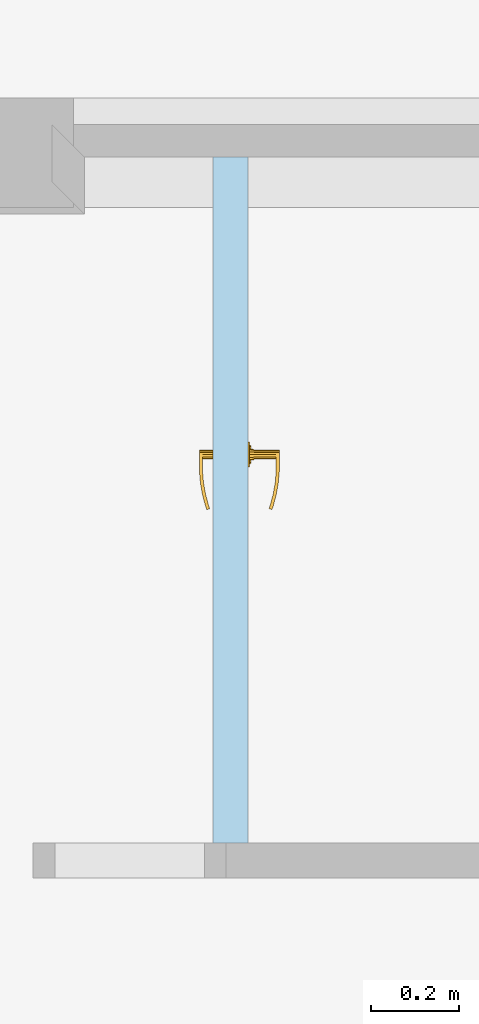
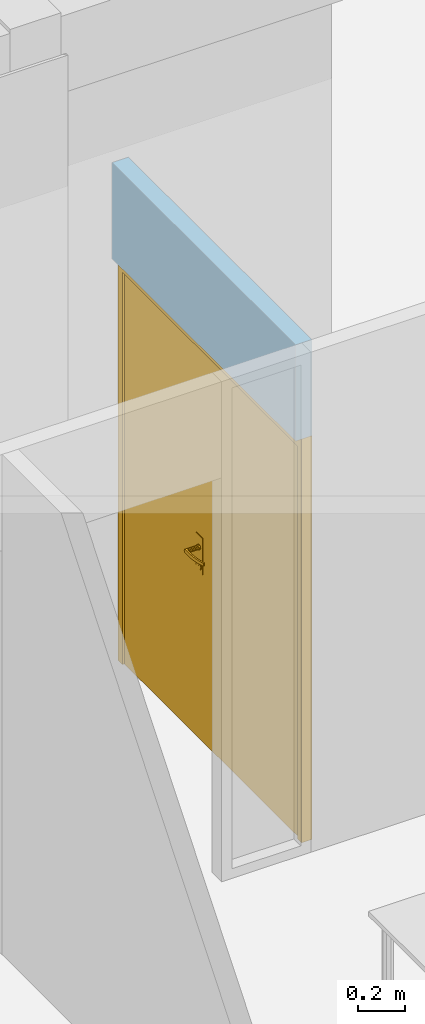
# One storey, part 40 of 91: 1 door, 1 opening, plus 1 element that does not belong to this part.
"""IFC2X3 building model written with IfcOpenShell, lengths in metres."""

from ifc_helpers import new_model, entity, si_unit, converted_unit, derived_unit, money_unit, direction, frame, origin_with_axes, origin_2d_with_axis, place, context, subcontext, project, spatial, polyline, rectangle, outline, extrude, open_shell, faceted_brep, surface_model, material, layer, layer_set, layer_usage, type_object, element, fill, save


model = new_model("IFC2X3")

# Units and contexts
model_context = context("Model", 3, precision=1e-05, world=origin_with_axes(), true_north=direction((0.0, 1.0)))
body_context = subcontext(model_context, "Body", "Model", "MODEL_VIEW")
ifc_project = project(units=[si_unit("LENGTHUNIT", "METRE"), si_unit("AREAUNIT", "SQUARE_METRE"), si_unit("VOLUMEUNIT", "CUBIC_METRE"), converted_unit("PLANEANGLEUNIT", "DEGREE", entity("IfcPlaneAngleMeasure", 0.0174532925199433), si_unit("PLANEANGLEUNIT", "RADIAN"), dimensions=[0, 0, 0, 0, 0, 0, 0]), money_unit("EUR"), converted_unit("TIMEUNIT", "Year", entity("IfcTimeMeasure", 31557600.0), si_unit("TIMEUNIT", "SECOND"), dimensions=[0, 0, 1, 0, 0, 0, 0]), si_unit("MASSUNIT", "GRAM", prefix="KILO"), si_unit("THERMODYNAMICTEMPERATUREUNIT", "DEGREE_CELSIUS"), si_unit("LUMINOUSINTENSITYUNIT", "LUMEN"), si_unit("ENERGYUNIT", "JOULE", prefix="MEGA"), derived_unit("THERMALCONDUCTANCEUNIT", [(si_unit("POWERUNIT", "WATT"), 1), (si_unit("LENGTHUNIT", "METRE"), -1), (si_unit("THERMODYNAMICTEMPERATUREUNIT", "KELVIN"), -1)]), derived_unit("SPECIFICHEATCAPACITYUNIT", [(si_unit("ENERGYUNIT", "JOULE"), 1), (si_unit("MASSUNIT", "GRAM", prefix="KILO"), -1), (si_unit("THERMODYNAMICTEMPERATUREUNIT", "KELVIN"), -1)]), derived_unit("MASSDENSITYUNIT", [(si_unit("MASSUNIT", "GRAM", prefix="KILO"), 1), (si_unit("VOLUMEUNIT", "CUBIC_METRE"), -1)])], contexts=[model_context])

# Site, building, storey
site_placement = place(None, origin_with_axes())
site = spatial("IfcSite", under=ifc_project, at=site_placement, Name="Site", CompositionType="ELEMENT")
building_placement = place(site_placement, origin_with_axes())
building = spatial("IfcBuilding", under=site, at=building_placement, Name="Bâtiment", CompositionType="ELEMENT")
storey_placement = place(building_placement, origin_with_axes())
storey = spatial("IfcBuildingStorey", under=building, at=storey_placement, Name="RDC", CompositionType="ELEMENT", Elevation=0.0)

# Wall, opening, door
ifc_material = material(Name="*PLAQUE DE PLATRE - CLOISON")
ifc_layer = layer(ifc_material, 0.08, ventilated="UNKNOWN")
ifc_layer_set = layer_set([ifc_layer], Name="*PLAQUE DE PLATRE - CLOISON 0.08")
ifc_layer_usage = layer_usage(ifc_layer_set, "AXIS2", "POSITIVE", 0.0)
wall_type = type_object("IfcWallType", Name="*PLAQUE DE PLATRE - CLOISON 80", PredefinedType="NOTDEFINED")
wall_placement = place(storey_placement, frame((43.94299999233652, -23.11056215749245, 0.0), z_axis=(0.0, 0.0, 1.0), x_axis=(0.0, 1.0, 0.0)))
wall = element("IfcWallStandardCase", 1, at=wall_placement, inside=storey, type_object=wall_type, material=ifc_layer_usage, Name="Cloison modulaire", context=body_context, shape_type="SweptSolid", body=[
    extrude(outline(polyline([(0.08000000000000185, 0.0), (1.643000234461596, 0.0), (1.643000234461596, 0.0799999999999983), (0.08000000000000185, 0.0799999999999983), (0.08000000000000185, 0.0)])), origin_with_axes(), (0.0, 0.0, 1.0), 2.600000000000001),
])
opening_placement = place(wall_placement, frame((0.861500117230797, 0.0, 0.0), z_axis=(0.0, 0.0, 1.0), x_axis=(1.0, 0.0, 0.0)))
opening = element("IfcOpeningElement", 2, at=opening_placement, cuts=wall, Name="Pi.03", context=body_context, shape_type="SweptSolid", body=[
    extrude(rectangle(XDim=1.563000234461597, YDim=2.1, at=origin_2d_with_axis()), frame((0.0, 0.0799999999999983, 1.05), z_axis=(0.0, -1.0, 0.0), x_axis=(-1.0, 0.0, 0.0)), (0.0, 0.0, 1.0), 0.24),
])
door_style = type_object("IfcDoorStyle", Name="Porte double 27", ConstructionType="NOTDEFINED", OperationType="DOUBLE_DOOR_SINGLE_SWING", ParameterTakesPrecedence=False, Sizeable=False)
door_placement = place(opening_placement, frame((0.7815001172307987, 0.0, 0.0), z_axis=(0.0, 0.0, 1.0), x_axis=(-1.0, 0.0, 0.0)))
door = element("IfcDoor", 3, at=door_placement, inside=storey, type_object=door_style, Name="Pi.03", OverallHeight=2.1, OverallWidth=1.563, context=body_context, shape_type="SurfaceModel", body=[
    faceted_brep([(0.0, 0.0, 0.0), (0.03500000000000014, 0.0, 0.0), (0.03500000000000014, -0.04999999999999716, 0.0), (0.0, -0.04999999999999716, 0.0), (0.0, 0.0, 2.04), (0.03500000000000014, 0.0, 2.04), (0.03500000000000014, -0.04999999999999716, 2.04), (0.0, -0.04999999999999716, 2.04)], [[[0, 1, 2, 3]], [[0, 4, 5, 1]], [[1, 5, 6, 2]], [[3, 2, 6, 7]], [[4, 0, 3, 7]], [[5, 4, 7, 6]]]),
    faceted_brep([(1.563000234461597, 0.0, 0.0), (1.563000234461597, 0.0, 2.04), (1.563000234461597, -0.04999999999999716, 2.04), (1.563000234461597, -0.04999999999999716, 0.0), (1.528000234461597, 0.0, 0.0), (1.528000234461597, 0.0, 2.04), (1.528000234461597, -0.04999999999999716, 2.04), (1.528000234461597, -0.04999999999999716, 0.0)], [[[0, 1, 2, 3]], [[0, 4, 5, 1]], [[1, 5, 6, 2]], [[3, 2, 6, 7]], [[4, 0, 3, 7]], [[5, 4, 7, 6]]]),
    faceted_brep([(0.0, 0.0, 2.1), (0.0, 0.0, 2.04), (0.0, -0.04999999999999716, 2.04), (0.0, -0.04999999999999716, 2.1), (1.563000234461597, 0.0, 2.1), (1.563000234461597, 0.0, 2.04), (1.528000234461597, 0.0, 2.04), (0.03500000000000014, 0.0, 2.04), (0.03500000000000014, -0.04999999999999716, 2.04), (1.528000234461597, -0.04999999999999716, 2.04), (1.563000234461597, -0.04999999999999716, 2.04), (1.563000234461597, -0.04999999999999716, 2.1)], [[[0, 1, 2, 3]], [[0, 4, 5, 6, 7, 1]], [[1, 7, 8, 2]], [[3, 2, 8, 9, 10, 11]], [[4, 0, 3, 11]], [[5, 4, 11, 10]], [[6, 5, 10, 9]], [[7, 6, 9, 8]]]),
    faceted_brep([(0.6495002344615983, -0.03999999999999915, 1.06), (0.6495002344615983, -0.04299999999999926, 1.06), (0.7065002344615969, -0.04299999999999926, 1.06), (0.7065002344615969, -0.03999999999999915, 1.06), (0.6495002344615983, -0.03999999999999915, 0.87), (0.6495002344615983, -0.04299999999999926, 0.87), (0.7065002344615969, -0.04299999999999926, 0.87), (0.7065002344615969, -0.03999999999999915, 0.87)], [[[0, 1, 2, 3]], [[4, 5, 1, 0]], [[1, 5, 6, 2]], [[3, 2, 6, 7]], [[0, 3, 7, 4]], [[7, 6, 5, 4]]]),
    faceted_brep([(0.6780002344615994, -0.1039999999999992, 0.99), (0.6780002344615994, -0.1109999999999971, 0.99), (0.6730002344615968, -0.1109999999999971, 0.9913397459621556), (0.6730002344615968, -0.1039999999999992, 0.9913397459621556), (0.703000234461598, -0.1039999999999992, 0.99), (0.703000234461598, -0.1109999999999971, 0.99), (0.703000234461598, -0.1109999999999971, 1.01), (0.6780002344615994, -0.1109999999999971, 1.01), (0.6730002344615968, -0.1109999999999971, 1.008660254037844), (0.6693399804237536, -0.1109999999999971, 1.005), (0.6680002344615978, -0.1109999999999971, 1.0), (0.6693399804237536, -0.1109999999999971, 0.995), (0.6693399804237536, -0.1039999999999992, 0.995), (0.6680002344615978, -0.1039999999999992, 1.0), (0.6693399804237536, -0.1039999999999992, 1.005), (0.6730002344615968, -0.1039999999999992, 1.008660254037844), (0.6780002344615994, -0.1039999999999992, 1.01), (0.703000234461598, -0.1039999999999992, 1.01)], [[[0, 1, 2, 3]], [[4, 5, 1, 0]], [[1, 5, 6, 7, 8, 9, 10, 11, 2]], [[3, 2, 11, 12]], [[0, 3, 12, 13, 14, 15, 16, 17, 4]], [[17, 6, 5, 4]], [[16, 7, 6, 17]], [[15, 8, 7, 16]], [[14, 9, 8, 15]], [[13, 10, 9, 14]], [[12, 11, 10, 13]]]),
    surface_model("IfcShellBasedSurfaceModel", [(0.703000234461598, -0.1039999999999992, 1.01), (0.7164041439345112, -0.1109999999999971, 1.009607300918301), (0.716098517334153, -0.1039999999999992, 1.009607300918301), (0.703000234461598, -0.1109999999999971, 1.01), (0.7431099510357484, -0.1086635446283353, 1.008821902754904), (0.716098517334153, -0.1039999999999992, 0.9903926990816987), (0.703000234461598, -0.1039999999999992, 0.99), (0.703000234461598, -0.1109999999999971, 0.99), (0.7164041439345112, -0.1109999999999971, 0.9903926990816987), (0.7431099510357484, -0.1086635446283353, 0.9911780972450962), (0.7421953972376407, -0.1017168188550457, 1.008821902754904), (0.7421953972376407, -0.1017168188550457, 0.9911780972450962), (0.7695104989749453, -0.1040084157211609, 0.9919634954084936), (0.7695104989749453, -0.1040084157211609, 1.008036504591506), (0.7679939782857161, -0.09716783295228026, 1.008036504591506), (0.7679939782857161, -0.09716783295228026, 0.9919634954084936), (0.795404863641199, -0.09707004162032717, 0.9927488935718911), (0.795404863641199, -0.09707004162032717, 1.007251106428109), (0.7932979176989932, -0.09038766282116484, 1.007251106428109), (0.7932979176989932, -0.09038766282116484, 0.9927488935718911), (0.803461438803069, -0.09413768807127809, 0.993), (0.803461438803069, -0.09413768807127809, 1.007), (0.8011707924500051, -0.08752217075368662, 1.007), (0.8011707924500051, -0.08752217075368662, 0.993)], [open_shell([[[0, 1, 2]], [[0, 3, 1]], [[2, 1, 4]], [[0, 2, 5, 6]], [[3, 7, 8, 1]], [[1, 8, 9, 4]], [[2, 4, 10]], [[2, 10, 11, 5]], [[5, 7, 6]], [[5, 8, 7]], [[11, 9, 8]], [[4, 9, 12, 13]], [[10, 4, 13]], [[10, 14, 15, 11]], [[11, 8, 5]], [[15, 9, 11]], [[15, 12, 9]], [[13, 12, 16, 17]], [[10, 13, 14]], [[14, 18, 19, 15]], [[19, 12, 15]], [[19, 16, 12]], [[17, 16, 20, 21]], [[14, 13, 17]], [[14, 17, 18]], [[18, 22, 23, 19]], [[23, 16, 19]], [[23, 20, 16]], [[22, 21, 20, 23]], [[18, 17, 21]], [[18, 21, 22]]])]),
    faceted_brep([(0.68839253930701, -0.05299999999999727, 0.994), (0.6892585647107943, -0.04299999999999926, 0.9935), (0.6910002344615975, -0.04299999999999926, 1.0), (0.6900002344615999, -0.05299999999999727, 1.0), (0.6840002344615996, -0.05299999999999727, 0.9896076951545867), (0.6845002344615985, -0.04299999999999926, 0.9887416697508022), (0.6780002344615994, -0.04299999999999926, 0.987), (0.6715002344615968, -0.04299999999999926, 0.9887416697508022), (0.666741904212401, -0.04299999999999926, 0.9934999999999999), (0.6650002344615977, -0.04299999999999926, 1.0), (0.666741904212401, -0.04299999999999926, 1.0065), (0.6715002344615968, -0.04299999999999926, 1.011258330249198), (0.6780002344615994, -0.04299999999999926, 1.013), (0.6845002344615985, -0.04299999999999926, 1.011258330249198), (0.6892585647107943, -0.04299999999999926, 1.0065), (0.68839253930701, -0.05299999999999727, 1.006), (0.6840002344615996, -0.05299999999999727, 1.010392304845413), (0.6780002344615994, -0.05299999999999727, 1.012), (0.6720002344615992, -0.05299999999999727, 1.010392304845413), (0.6676079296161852, -0.05299999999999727, 1.006), (0.666000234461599, -0.05299999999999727, 1.0), (0.6676079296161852, -0.05299999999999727, 0.994), (0.6720002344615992, -0.05299999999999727, 0.9896076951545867), (0.6780002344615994, -0.05299999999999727, 0.988)], [[[0, 1, 2, 3]], [[4, 5, 1, 0]], [[2, 1, 5, 6, 7, 8, 9, 10, 11, 12, 13, 14]], [[3, 2, 14, 15]], [[3, 15, 16, 17, 18, 19, 20, 21, 22, 23, 4, 0]], [[23, 6, 5, 4]], [[22, 7, 6, 23]], [[21, 8, 7, 22]], [[20, 9, 8, 21]], [[19, 10, 9, 20]], [[18, 11, 10, 19]], [[17, 12, 11, 18]], [[16, 13, 12, 17]], [[15, 14, 13, 16]]]),
    faceted_brep([(0.6953207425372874, -0.04699999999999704, 0.895), (0.6970527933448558, -0.04299999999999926, 0.894), (0.7000002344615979, -0.04299999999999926, 0.905), (0.698000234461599, -0.04699999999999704, 0.905), (0.6880002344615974, -0.04699999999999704, 0.8876794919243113), (0.6890002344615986, -0.04299999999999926, 0.8859474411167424), (0.6780002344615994, -0.04299999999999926, 0.883), (0.6670002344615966, -0.04299999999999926, 0.8859474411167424), (0.6589476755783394, -0.04299999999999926, 0.894), (0.6560002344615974, -0.04299999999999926, 0.905), (0.6589476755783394, -0.04299999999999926, 0.916), (0.6670002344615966, -0.04299999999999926, 0.9240525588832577), (0.6780002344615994, -0.04299999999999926, 0.927), (0.6890002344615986, -0.04299999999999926, 0.9240525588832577), (0.6970527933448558, -0.04299999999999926, 0.916), (0.6953207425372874, -0.04699999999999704, 0.915), (0.6880002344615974, -0.04699999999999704, 0.9223205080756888), (0.6780002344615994, -0.04699999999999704, 0.925), (0.6680002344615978, -0.04699999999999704, 0.9223205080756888), (0.6606797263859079, -0.04699999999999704, 0.915), (0.6580002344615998, -0.04699999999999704, 0.905), (0.6606797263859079, -0.04699999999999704, 0.895), (0.6680002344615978, -0.04699999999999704, 0.8876794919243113), (0.6780002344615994, -0.04699999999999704, 0.885)], [[[0, 1, 2, 3]], [[4, 5, 1, 0]], [[2, 1, 5, 6, 7, 8, 9, 10, 11, 12, 13, 14]], [[3, 2, 14, 15]], [[3, 15, 16, 17, 18, 19, 20, 21, 22, 23, 4, 0]], [[23, 6, 5, 4]], [[22, 7, 6, 23]], [[21, 8, 7, 22]], [[20, 9, 8, 21]], [[19, 10, 9, 20]], [[18, 11, 10, 19]], [[17, 12, 11, 18]], [[16, 13, 12, 17]], [[15, 14, 13, 16]]]),
    faceted_brep([(0.6829499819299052, -0.04899999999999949, 0.9090502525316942), (0.6836570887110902, -0.04699999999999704, 0.9083431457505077), (0.6860002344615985, -0.04699999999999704, 0.914), (0.6850002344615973, -0.04899999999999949, 0.914), (0.6780002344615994, -0.04899999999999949, 0.907), (0.6780002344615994, -0.04699999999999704, 0.906), (0.672343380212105, -0.04699999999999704, 0.9083431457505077), (0.6700002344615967, -0.04699999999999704, 0.914), (0.672343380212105, -0.04699999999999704, 0.9196568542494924), (0.6780002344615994, -0.04699999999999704, 0.922), (0.6836570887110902, -0.04699999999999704, 0.9196568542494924), (0.6829499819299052, -0.04899999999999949, 0.9189497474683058), (0.6780002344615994, -0.04899999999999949, 0.921), (0.6730504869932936, -0.04899999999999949, 0.9189497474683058), (0.671000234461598, -0.04899999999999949, 0.914), (0.6730504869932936, -0.04899999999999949, 0.9090502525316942)], [[[0, 1, 2, 3]], [[4, 5, 1, 0]], [[2, 1, 5, 6, 7, 8, 9, 10]], [[3, 2, 10, 11]], [[3, 11, 12, 13, 14, 15, 4, 0]], [[15, 6, 5, 4]], [[14, 7, 6, 15]], [[13, 8, 7, 14]], [[12, 9, 8, 13]], [[11, 10, 9, 12]]]),
    faceted_brep([(0.6780002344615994, -0.05299999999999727, 1.01), (0.6780002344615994, -0.1039999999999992, 1.01), (0.6830002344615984, -0.1039999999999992, 1.008660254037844), (0.6830002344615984, -0.05299999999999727, 1.008660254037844), (0.6730002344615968, -0.05299999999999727, 1.008660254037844), (0.6730002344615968, -0.1039999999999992, 1.008660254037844), (0.6693399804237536, -0.1039999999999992, 1.005), (0.6680002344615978, -0.1039999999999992, 1.0), (0.6693399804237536, -0.1039999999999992, 0.995), (0.6730002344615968, -0.1039999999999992, 0.9913397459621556), (0.6780002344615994, -0.1039999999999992, 0.99), (0.6830002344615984, -0.1039999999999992, 0.9913397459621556), (0.6866604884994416, -0.1039999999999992, 0.995), (0.6880002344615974, -0.1039999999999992, 1.0), (0.6866604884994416, -0.1039999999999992, 1.005), (0.6866604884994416, -0.05299999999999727, 1.005), (0.6880002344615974, -0.05299999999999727, 1.0), (0.6866604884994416, -0.05299999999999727, 0.995), (0.6830002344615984, -0.05299999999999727, 0.9913397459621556), (0.6780002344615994, -0.05299999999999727, 0.99), (0.6730002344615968, -0.05299999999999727, 0.9913397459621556), (0.6693399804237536, -0.05299999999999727, 0.995), (0.6680002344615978, -0.05299999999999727, 1.0), (0.6693399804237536, -0.05299999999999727, 1.005)], [[[0, 1, 2, 3]], [[4, 5, 1, 0]], [[1, 5, 6, 7, 8, 9, 10, 11, 12, 13, 14, 2]], [[3, 2, 14, 15]], [[0, 3, 15, 16, 17, 18, 19, 20, 21, 22, 23, 4]], [[23, 6, 5, 4]], [[22, 7, 6, 23]], [[21, 8, 7, 22]], [[20, 9, 8, 21]], [[19, 10, 9, 20]], [[18, 11, 10, 19]], [[17, 12, 11, 18]], [[16, 13, 12, 17]], [[15, 14, 13, 16]]]),
    faceted_brep([(0.6495002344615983, 0.0, 1.06), (0.7065002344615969, 0.0, 1.06), (0.7065002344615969, 0.003000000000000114, 1.06), (0.6495002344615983, 0.003000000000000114, 1.06), (0.6495002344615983, 0.0, 0.87), (0.7065002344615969, 0.0, 0.87), (0.7065002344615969, 0.003000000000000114, 0.87), (0.6495002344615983, 0.003000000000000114, 0.87)], [[[0, 1, 2, 3]], [[0, 4, 5, 1]], [[1, 5, 6, 2]], [[3, 2, 6, 7]], [[4, 0, 3, 7]], [[5, 4, 7, 6]]]),
    faceted_brep([(0.6780002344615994, 0.06400000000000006, 0.99), (0.6730002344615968, 0.06400000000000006, 0.9913397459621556), (0.6730002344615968, 0.07099999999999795, 0.9913397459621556), (0.6780002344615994, 0.07099999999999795, 0.99), (0.703000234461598, 0.06400000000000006, 0.99), (0.703000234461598, 0.06400000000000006, 1.01), (0.6780002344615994, 0.06400000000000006, 1.01), (0.6730002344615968, 0.06400000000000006, 1.008660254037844), (0.6693399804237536, 0.06400000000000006, 1.005), (0.6680002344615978, 0.06400000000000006, 1.0), (0.6693399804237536, 0.06400000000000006, 0.995), (0.6693399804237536, 0.07099999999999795, 0.995), (0.6680002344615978, 0.07099999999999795, 1.0), (0.6693399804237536, 0.07099999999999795, 1.005), (0.6730002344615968, 0.07099999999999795, 1.008660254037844), (0.6780002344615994, 0.07099999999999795, 1.01), (0.703000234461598, 0.07099999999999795, 1.01), (0.703000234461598, 0.07099999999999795, 0.99)], [[[0, 1, 2, 3]], [[0, 4, 5, 6, 7, 8, 9, 10, 1]], [[1, 10, 11, 2]], [[3, 2, 11, 12, 13, 14, 15, 16, 17]], [[4, 0, 3, 17]], [[5, 4, 17, 16]], [[6, 5, 16, 15]], [[7, 6, 15, 14]], [[8, 7, 14, 13]], [[9, 8, 13, 12]], [[10, 9, 12, 11]]]),
    surface_model("IfcShellBasedSurfaceModel", [(0.703000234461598, 0.06400000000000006, 1.01), (0.716098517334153, 0.06400000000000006, 1.009607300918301), (0.7164041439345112, 0.07099999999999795, 1.009607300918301), (0.703000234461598, 0.06400000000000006, 0.99), (0.716098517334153, 0.06400000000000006, 0.9903926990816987), (0.7431099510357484, 0.06866354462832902, 1.008821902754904), (0.703000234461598, 0.07099999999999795, 1.01), (0.703000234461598, 0.07099999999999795, 0.99), (0.7421953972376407, 0.06171681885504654, 0.9911780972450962), (0.7421953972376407, 0.06171681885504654, 1.008821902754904), (0.7431099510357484, 0.06866354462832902, 0.9911780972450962), (0.7164041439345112, 0.07099999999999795, 0.9903926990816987), (0.7679939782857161, 0.05716783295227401, 0.9919634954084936), (0.7679939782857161, 0.05716783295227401, 1.008036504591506), (0.7695104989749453, 0.06400841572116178, 1.008036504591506), (0.7695104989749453, 0.06400841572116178, 0.9919634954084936), (0.7932979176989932, 0.05038766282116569, 0.9927488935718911), (0.7932979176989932, 0.05038766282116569, 1.007251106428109), (0.795404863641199, 0.05707004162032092, 1.007251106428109), (0.795404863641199, 0.05707004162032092, 0.9927488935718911), (0.8011707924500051, 0.04752217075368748, 0.993), (0.8011707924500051, 0.04752217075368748, 1.007), (0.803461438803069, 0.05413768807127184, 1.007), (0.803461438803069, 0.05413768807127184, 0.993)], [open_shell([[[0, 1, 2]], [[0, 3, 4, 1]], [[1, 5, 2]], [[0, 2, 6]], [[4, 3, 7]], [[1, 4, 8, 9]], [[1, 9, 5]], [[2, 5, 10, 11]], [[6, 2, 11, 7]], [[4, 7, 11]], [[8, 4, 11]], [[9, 8, 12, 13]], [[9, 14, 5]], [[5, 14, 15, 10]], [[8, 11, 10]], [[12, 8, 10]], [[13, 12, 16, 17]], [[9, 13, 14]], [[14, 18, 19, 15]], [[12, 10, 15]], [[16, 12, 15]], [[17, 16, 20, 21]], [[13, 17, 18]], [[13, 18, 14]], [[18, 22, 23, 19]], [[16, 15, 19]], [[20, 16, 19]], [[21, 20, 23, 22]], [[17, 21, 22]], [[17, 22, 18]], [[20, 19, 23]]])]),
    faceted_brep([(0.68839253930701, 0.01299999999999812, 0.994), (0.6900002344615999, 0.01299999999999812, 1.0), (0.6910002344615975, 0.003000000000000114, 1.0), (0.6892585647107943, 0.003000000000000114, 0.9935), (0.6840002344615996, 0.01299999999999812, 0.9896076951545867), (0.6780002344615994, 0.01299999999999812, 0.988), (0.6720002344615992, 0.01299999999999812, 0.9896076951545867), (0.6676079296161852, 0.01299999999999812, 0.994), (0.666000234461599, 0.01299999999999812, 1.0), (0.6676079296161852, 0.01299999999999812, 1.006), (0.6720002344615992, 0.01299999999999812, 1.010392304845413), (0.6780002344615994, 0.01299999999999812, 1.012), (0.6840002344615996, 0.01299999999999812, 1.010392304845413), (0.68839253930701, 0.01299999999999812, 1.006), (0.6892585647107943, 0.003000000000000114, 1.0065), (0.6845002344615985, 0.003000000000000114, 1.011258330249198), (0.6780002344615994, 0.003000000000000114, 1.013), (0.6715002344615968, 0.003000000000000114, 1.011258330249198), (0.666741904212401, 0.003000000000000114, 1.0065), (0.6650002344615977, 0.003000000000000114, 1.0), (0.666741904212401, 0.003000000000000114, 0.9934999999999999), (0.6715002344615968, 0.003000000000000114, 0.9887416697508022), (0.6780002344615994, 0.003000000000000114, 0.987), (0.6845002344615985, 0.003000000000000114, 0.9887416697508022)], [[[0, 1, 2, 3]], [[1, 0, 4, 5, 6, 7, 8, 9, 10, 11, 12, 13]], [[1, 13, 14, 2]], [[2, 14, 15, 16, 17, 18, 19, 20, 21, 22, 23, 3]], [[4, 0, 3, 23]], [[5, 4, 23, 22]], [[6, 5, 22, 21]], [[7, 6, 21, 20]], [[8, 7, 20, 19]], [[9, 8, 19, 18]], [[10, 9, 18, 17]], [[11, 10, 17, 16]], [[12, 11, 16, 15]], [[13, 12, 15, 14]]]),
    faceted_brep([(0.6953207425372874, 0.006999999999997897, 0.895), (0.698000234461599, 0.006999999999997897, 0.905), (0.7000002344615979, 0.003000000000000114, 0.905), (0.6970527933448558, 0.003000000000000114, 0.894), (0.6880002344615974, 0.006999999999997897, 0.8876794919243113), (0.6780002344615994, 0.006999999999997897, 0.885), (0.6680002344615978, 0.006999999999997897, 0.8876794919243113), (0.6606797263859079, 0.006999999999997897, 0.895), (0.6580002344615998, 0.006999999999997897, 0.905), (0.6606797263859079, 0.006999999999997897, 0.915), (0.6680002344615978, 0.006999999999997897, 0.9223205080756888), (0.6780002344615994, 0.006999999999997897, 0.925), (0.6880002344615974, 0.006999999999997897, 0.9223205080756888), (0.6953207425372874, 0.006999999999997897, 0.915), (0.6970527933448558, 0.003000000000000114, 0.916), (0.6890002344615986, 0.003000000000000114, 0.9240525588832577), (0.6780002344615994, 0.003000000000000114, 0.927), (0.6670002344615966, 0.003000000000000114, 0.9240525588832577), (0.6589476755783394, 0.003000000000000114, 0.916), (0.6560002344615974, 0.003000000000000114, 0.905), (0.6589476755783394, 0.003000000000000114, 0.894), (0.6670002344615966, 0.003000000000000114, 0.8859474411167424), (0.6780002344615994, 0.003000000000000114, 0.883), (0.6890002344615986, 0.003000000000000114, 0.8859474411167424)], [[[0, 1, 2, 3]], [[1, 0, 4, 5, 6, 7, 8, 9, 10, 11, 12, 13]], [[1, 13, 14, 2]], [[2, 14, 15, 16, 17, 18, 19, 20, 21, 22, 23, 3]], [[4, 0, 3, 23]], [[5, 4, 23, 22]], [[6, 5, 22, 21]], [[7, 6, 21, 20]], [[8, 7, 20, 19]], [[9, 8, 19, 18]], [[10, 9, 18, 17]], [[11, 10, 17, 16]], [[12, 11, 16, 15]], [[13, 12, 15, 14]]]),
    faceted_brep([(0.6829499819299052, 0.009000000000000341, 0.9090502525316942), (0.6850002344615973, 0.009000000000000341, 0.914), (0.6860002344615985, 0.006999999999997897, 0.914), (0.6836570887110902, 0.006999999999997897, 0.9083431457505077), (0.6780002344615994, 0.009000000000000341, 0.907), (0.6730504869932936, 0.009000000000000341, 0.9090502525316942), (0.671000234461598, 0.009000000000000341, 0.914), (0.6730504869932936, 0.009000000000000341, 0.9189497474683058), (0.6780002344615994, 0.009000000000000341, 0.921), (0.6829499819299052, 0.009000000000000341, 0.9189497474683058), (0.6836570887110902, 0.006999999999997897, 0.9196568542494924), (0.6780002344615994, 0.006999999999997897, 0.922), (0.672343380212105, 0.006999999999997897, 0.9196568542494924), (0.6700002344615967, 0.006999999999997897, 0.914), (0.672343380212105, 0.006999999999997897, 0.9083431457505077), (0.6780002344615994, 0.006999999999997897, 0.906)], [[[0, 1, 2, 3]], [[1, 0, 4, 5, 6, 7, 8, 9]], [[1, 9, 10, 2]], [[2, 10, 11, 12, 13, 14, 15, 3]], [[4, 0, 3, 15]], [[5, 4, 15, 14]], [[6, 5, 14, 13]], [[7, 6, 13, 12]], [[8, 7, 12, 11]], [[9, 8, 11, 10]]]),
    faceted_brep([(0.6780002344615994, 0.01299999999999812, 1.01), (0.6830002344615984, 0.01299999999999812, 1.008660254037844), (0.6830002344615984, 0.06400000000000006, 1.008660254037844), (0.6780002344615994, 0.06400000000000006, 1.01), (0.6730002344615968, 0.01299999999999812, 1.008660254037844), (0.6693399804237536, 0.01299999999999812, 1.005), (0.6680002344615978, 0.01299999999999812, 1.0), (0.6693399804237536, 0.01299999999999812, 0.995), (0.6730002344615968, 0.01299999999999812, 0.9913397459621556), (0.6780002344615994, 0.01299999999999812, 0.99), (0.6830002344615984, 0.01299999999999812, 0.9913397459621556), (0.6866604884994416, 0.01299999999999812, 0.995), (0.6880002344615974, 0.01299999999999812, 1.0), (0.6866604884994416, 0.01299999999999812, 1.005), (0.6866604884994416, 0.06400000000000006, 1.005), (0.6880002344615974, 0.06400000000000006, 1.0), (0.6866604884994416, 0.06400000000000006, 0.995), (0.6830002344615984, 0.06400000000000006, 0.9913397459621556), (0.6780002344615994, 0.06400000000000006, 0.99), (0.6730002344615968, 0.06400000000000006, 0.9913397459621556), (0.6693399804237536, 0.06400000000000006, 0.995), (0.6680002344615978, 0.06400000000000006, 1.0), (0.6693399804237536, 0.06400000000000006, 1.005), (0.6730002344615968, 0.06400000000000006, 1.008660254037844)], [[[0, 1, 2, 3]], [[0, 4, 5, 6, 7, 8, 9, 10, 11, 12, 13, 1]], [[1, 13, 14, 2]], [[3, 2, 14, 15, 16, 17, 18, 19, 20, 21, 22, 23]], [[4, 0, 3, 23]], [[5, 4, 23, 22]], [[6, 5, 22, 21]], [[7, 6, 21, 20]], [[8, 7, 20, 19]], [[9, 8, 19, 18]], [[10, 9, 18, 17]], [[11, 10, 17, 16]], [[12, 11, 16, 15]], [[13, 12, 15, 14]]]),
    faceted_brep([(1.528000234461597, 0.0, 0.0), (1.528000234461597, -0.03999999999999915, 0.0), (0.6280002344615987, -0.03999999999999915, 0.0), (0.6280002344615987, 0.0, 0.0), (1.528000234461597, 0.0, 2.04), (1.528000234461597, -0.03999999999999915, 2.04), (0.6280002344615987, -0.03999999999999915, 2.04), (0.6280002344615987, 0.0, 2.04)], [[[0, 1, 2, 3]], [[4, 5, 1, 0]], [[1, 5, 6, 2]], [[3, 2, 6, 7]], [[0, 3, 7, 4]], [[7, 6, 5, 4]]]),
    faceted_brep([(0.03500000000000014, 0.0, 0.0), (0.6280002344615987, 0.0, 0.0), (0.6280002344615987, -0.03999999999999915, 0.0), (0.03500000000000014, -0.03999999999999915, 0.0), (0.03500000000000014, 0.0, 2.04), (0.6280002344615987, 0.0, 2.04), (0.6280002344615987, -0.03999999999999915, 2.04), (0.03500000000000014, -0.03999999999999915, 2.04)], [[[0, 1, 2, 3]], [[0, 4, 5, 1]], [[1, 5, 6, 2]], [[3, 2, 6, 7]], [[4, 0, 3, 7]], [[5, 4, 7, 6]]]),
])
fill(opening, door)

save(model, "model.ifc")
